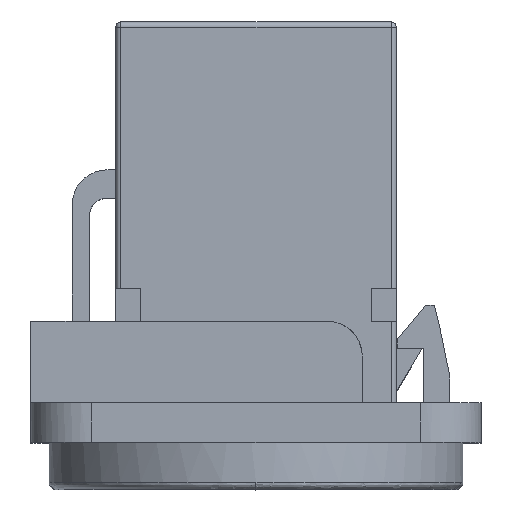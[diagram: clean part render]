
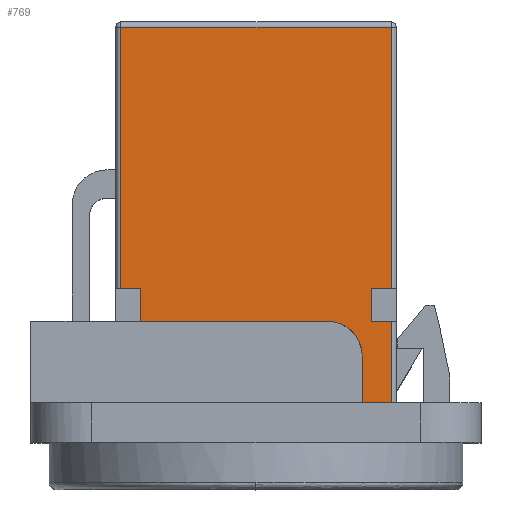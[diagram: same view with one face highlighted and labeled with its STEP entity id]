
A CAD part, top view. The second image highlights one B-rep face of the part: STEP entity #769.
In plain terms, the highlighted planar face has unit normal (0, 0, 1) as drawn and (1, 0, 0) by its records, which use the part's own axes.
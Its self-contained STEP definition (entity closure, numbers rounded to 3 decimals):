
#213 = EDGE_CURVE('',#214,#216,#218,.T.);
#214 = VERTEX_POINT('',#215);
#215 = CARTESIAN_POINT('',(7.25,-7.8,11.6));
#216 = VERTEX_POINT('',#217);
#217 = CARTESIAN_POINT('',(7.25,-6.7,11.6));
#218 = LINE('',#219,#220);
#219 = CARTESIAN_POINT('',(7.25,-8.1,11.6));
#220 = VECTOR('',#221,1.);
#221 = DIRECTION('',(0.,1.,0.));
#255 = EDGE_CURVE('',#214,#256,#258,.T.);
#256 = VERTEX_POINT('',#257);
#257 = CARTESIAN_POINT('',(7.25,-7.8,26.7));
#258 = LINE('',#259,#260);
#259 = CARTESIAN_POINT('',(7.25,-7.8,11.6));
#260 = VECTOR('',#261,1.);
#261 = DIRECTION('',(0.,0.,1.));
#336 = EDGE_CURVE('',#337,#339,#341,.T.);
#337 = VERTEX_POINT('',#338);
#338 = CARTESIAN_POINT('',(7.25,-6.7,9.7));
#339 = VERTEX_POINT('',#340);
#340 = CARTESIAN_POINT('',(7.25,-7.8,9.7));
#341 = LINE('',#342,#343);
#342 = CARTESIAN_POINT('',(7.25,-6.7,9.7));
#343 = VECTOR('',#344,1.);
#344 = DIRECTION('',(0.,-1.,0.));
#437 = VERTEX_POINT('',#438);
#438 = CARTESIAN_POINT('',(7.25,-7.8,0.3));
#445 = EDGE_CURVE('',#437,#339,#446,.T.);
#446 = LINE('',#447,#448);
#447 = CARTESIAN_POINT('',(7.25,-7.8,0.));
#448 = VECTOR('',#449,1.);
#449 = DIRECTION('',(0.,0.,1.));
#769 = ADVANCED_FACE('',(#770),#836,.F.);
#770 = FACE_BOUND('',#771,.F.);
#771 = EDGE_LOOP('',(#772,#782,#790,#796,#797,#798,#804,#805,#806,#814,
    #822,#830));
#772 = ORIENTED_EDGE('',*,*,#773,.T.);
#773 = EDGE_CURVE('',#774,#776,#778,.T.);
#774 = VERTEX_POINT('',#775);
#775 = CARTESIAN_POINT('',(7.25,6.7,9.7));
#776 = VERTEX_POINT('',#777);
#777 = CARTESIAN_POINT('',(7.25,7.8,9.7));
#778 = LINE('',#779,#780);
#779 = CARTESIAN_POINT('',(7.25,6.7,9.7));
#780 = VECTOR('',#781,1.);
#781 = DIRECTION('',(0.,1.,0.));
#782 = ORIENTED_EDGE('',*,*,#783,.F.);
#783 = EDGE_CURVE('',#784,#776,#786,.T.);
#784 = VERTEX_POINT('',#785);
#785 = CARTESIAN_POINT('',(7.25,7.8,0.3));
#786 = LINE('',#787,#788);
#787 = CARTESIAN_POINT('',(7.25,7.8,0.));
#788 = VECTOR('',#789,1.);
#789 = DIRECTION('',(0.,0.,1.));
#790 = ORIENTED_EDGE('',*,*,#791,.F.);
#791 = EDGE_CURVE('',#437,#784,#792,.T.);
#792 = LINE('',#793,#794);
#793 = CARTESIAN_POINT('',(7.25,-8.1,0.3));
#794 = VECTOR('',#795,1.);
#795 = DIRECTION('',(0.,1.,0.));
#796 = ORIENTED_EDGE('',*,*,#445,.T.);
#797 = ORIENTED_EDGE('',*,*,#336,.F.);
#798 = ORIENTED_EDGE('',*,*,#799,.F.);
#799 = EDGE_CURVE('',#216,#337,#800,.T.);
#800 = LINE('',#801,#802);
#801 = CARTESIAN_POINT('',(7.25,-6.7,11.6));
#802 = VECTOR('',#803,1.);
#803 = DIRECTION('',(0.,0.,-1.));
#804 = ORIENTED_EDGE('',*,*,#213,.F.);
#805 = ORIENTED_EDGE('',*,*,#255,.T.);
#806 = ORIENTED_EDGE('',*,*,#807,.T.);
#807 = EDGE_CURVE('',#256,#808,#810,.T.);
#808 = VERTEX_POINT('',#809);
#809 = CARTESIAN_POINT('',(7.25,7.8,26.7));
#810 = LINE('',#811,#812);
#811 = CARTESIAN_POINT('',(7.25,-8.1,26.7));
#812 = VECTOR('',#813,1.);
#813 = DIRECTION('',(0.,1.,0.));
#814 = ORIENTED_EDGE('',*,*,#815,.F.);
#815 = EDGE_CURVE('',#816,#808,#818,.T.);
#816 = VERTEX_POINT('',#817);
#817 = CARTESIAN_POINT('',(7.25,7.8,11.6));
#818 = LINE('',#819,#820);
#819 = CARTESIAN_POINT('',(7.25,7.8,11.6));
#820 = VECTOR('',#821,1.);
#821 = DIRECTION('',(0.,0.,1.));
#822 = ORIENTED_EDGE('',*,*,#823,.T.);
#823 = EDGE_CURVE('',#816,#824,#826,.T.);
#824 = VERTEX_POINT('',#825);
#825 = CARTESIAN_POINT('',(7.25,6.7,11.6));
#826 = LINE('',#827,#828);
#827 = CARTESIAN_POINT('',(7.25,8.1,11.6));
#828 = VECTOR('',#829,1.);
#829 = DIRECTION('',(0.,-1.,0.));
#830 = ORIENTED_EDGE('',*,*,#831,.T.);
#831 = EDGE_CURVE('',#824,#774,#832,.T.);
#832 = LINE('',#833,#834);
#833 = CARTESIAN_POINT('',(7.25,6.7,11.6));
#834 = VECTOR('',#835,1.);
#835 = DIRECTION('',(0.,0.,-1.));
#836 = PLANE('',#837);
#837 = AXIS2_PLACEMENT_3D('',#838,#839,#840);
#838 = CARTESIAN_POINT('',(7.25,-8.1,0.));
#839 = DIRECTION('',(-1.,0.,0.));
#840 = DIRECTION('',(0.,1.,0.));
